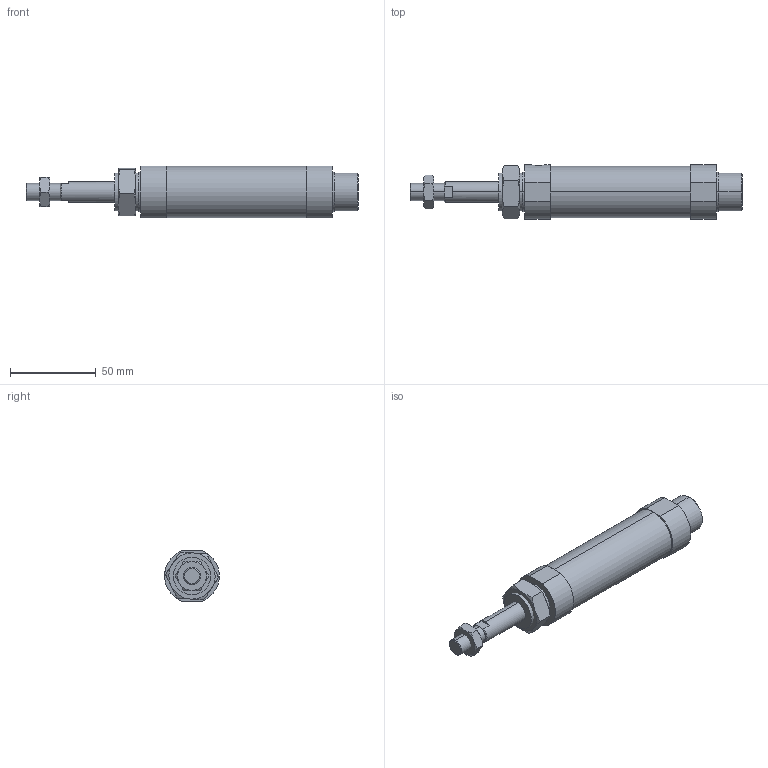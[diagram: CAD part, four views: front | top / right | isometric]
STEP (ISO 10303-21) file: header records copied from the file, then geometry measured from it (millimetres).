
FILE_DESCRIPTION (( 'STEP AP203' ), '1' );
FILE_NAME ('J#0-25-25-N.STEP', '2016-03-08T06:34:53', ( '' ), ( '' ), 'SwSTEP 2.0', 'SolidWorks 2014', '' );
FILE_SCHEMA (( 'CONFIG_CONTROL_DESIGN' ));
Length unit declared in the file: millimetre
Products named in the file (4): J#0-25-25; J#0-25-25-N
Assembly tree (3 placements, depth 2):
  J#0-25-25-N
    J#0-25-25
    (unnamed)
    (unnamed)
Bounding box: 194 x 32 x 30 mm (x, y, z)
Volume: 101184.2 mm3; surface area: 19985.8 mm2
Topology: 3 solids, 3 shells, 93 faces, 204 edges, 121 vertices
Faces by surface type: plane 37, cylinder 24, torus 24, cone 8
Entity records: 3196 total; most frequent: CARTESIAN_POINT 796, DIRECTION 426, ORIENTED_EDGE 404, EDGE_CURVE 202, AXIS2_PLACEMENT_3D 179, VERTEX_POINT 121, EDGE_LOOP 103, FACE_OUTER_BOUND 93
